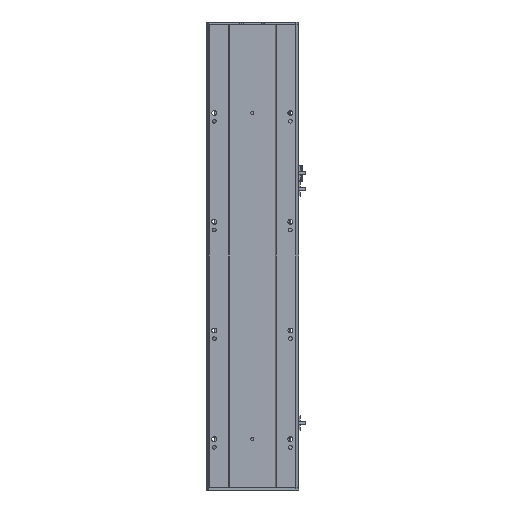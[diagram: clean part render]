
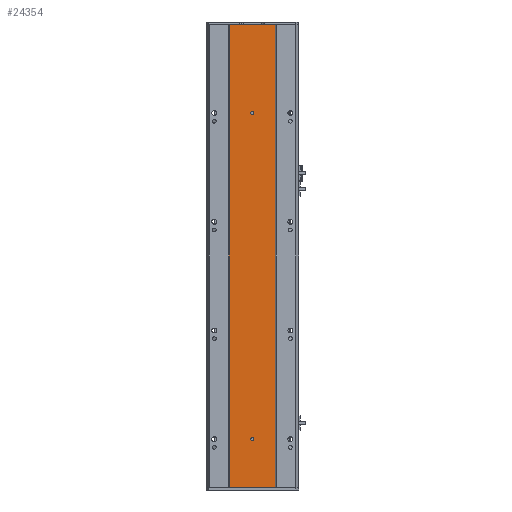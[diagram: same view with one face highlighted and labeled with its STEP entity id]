
A CAD part, front view. The second image highlights one B-rep face of the part: STEP entity #24354.
In plain terms, the highlighted planar face has unit normal (0, -1, 0).
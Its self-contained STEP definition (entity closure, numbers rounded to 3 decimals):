
#18 = VERTEX_POINT ( 'NONE', #1546 ) ;
#362 = CARTESIAN_POINT ( 'NONE',  ( 85., 2.57, 688.5 ) ) ;
#733 = CARTESIAN_POINT ( 'NONE',  ( 85., 2.57, 688.5 ) ) ;
#1546 = CARTESIAN_POINT ( 'NONE',  ( 126.916, 2.57, 0. ) ) ;
#1731 = ORIENTED_EDGE ( 'NONE', *, *, #17961, .T. ) ;
#2199 = ORIENTED_EDGE ( 'NONE', *, *, #20460, .T. ) ;
#2227 = DIRECTION ( 'NONE',  ( 0., 0., 1. ) ) ;
#2331 = CARTESIAN_POINT ( 'NONE',  ( 85., 2.57, 685.5 ) ) ;
#2481 = DIRECTION ( 'NONE',  ( 0., 1., 0. ) ) ;
#2581 = DIRECTION ( 'NONE',  ( 0., 0., 1. ) ) ;
#2593 = ORIENTED_EDGE ( 'NONE', *, *, #20894, .F. ) ;
#3217 = VERTEX_POINT ( 'NONE', #22075 ) ;
#3363 = AXIS2_PLACEMENT_3D ( 'NONE', #21736, #6793, #19922 ) ;
#3571 = LINE ( 'NONE', #5793, #22965 ) ;
#3633 = LINE ( 'NONE', #23263, #13070 ) ;
#4520 = ORIENTED_EDGE ( 'NONE', *, *, #18405, .T. ) ;
#4776 = VERTEX_POINT ( 'NONE', #21070 ) ;
#5448 = CARTESIAN_POINT ( 'NONE',  ( 85., 2.57, 691.5 ) ) ;
#5556 = AXIS2_PLACEMENT_3D ( 'NONE', #362, #13513, #2227 ) ;
#5793 = CARTESIAN_POINT ( 'NONE',  ( 42.916, 2.57, 0. ) ) ;
#6438 = LINE ( 'NONE', #9336, #15841 ) ;
#6537 = CARTESIAN_POINT ( 'NONE',  ( 42.916, 2.57, 851. ) ) ;
#6719 = VERTEX_POINT ( 'NONE', #5448 ) ;
#6769 = CARTESIAN_POINT ( 'NONE',  ( 85., 2.57, 88.5 ) ) ;
#6793 = DIRECTION ( 'NONE',  ( 0., 1., 0. ) ) ;
#7315 = VERTEX_POINT ( 'NONE', #21702 ) ;
#8075 = EDGE_LOOP ( 'NONE', ( #17426, #1731 ) ) ;
#8238 = VERTEX_POINT ( 'NONE', #2331 ) ;
#8654 = VERTEX_POINT ( 'NONE', #20254 ) ;
#8675 = DIRECTION ( 'NONE',  ( 0., 0., 1. ) ) ;
#9191 = CIRCLE ( 'NONE', #21482, 3. ) ;
#9336 = CARTESIAN_POINT ( 'NONE',  ( 126.916, 2.57, 0. ) ) ;
#9486 = CIRCLE ( 'NONE', #9721, 3. ) ;
#9721 = AXIS2_PLACEMENT_3D ( 'NONE', #6769, #19901, #8675 ) ;
#10509 = PLANE ( 'NONE',  #3363 ) ;
#10796 = EDGE_LOOP ( 'NONE', ( #4520, #2199 ) ) ;
#11233 = DIRECTION ( 'NONE',  ( 0., 0., 1. ) ) ;
#11518 = EDGE_CURVE ( 'NONE', #14950, #7315, #3633, .T. ) ;
#13070 = VECTOR ( 'NONE', #13923, 1000. ) ;
#13513 = DIRECTION ( 'NONE',  ( 0., 1., 0. ) ) ;
#13771 = CARTESIAN_POINT ( 'NONE',  ( 85., 2.57, 88.5 ) ) ;
#13875 = DIRECTION ( 'NONE',  ( 0., 1., 0. ) ) ;
#13923 = DIRECTION ( 'NONE',  ( 0., 0., 1. ) ) ;
#14547 = EDGE_CURVE ( 'NONE', #18, #3217, #6438, .T. ) ;
#14616 = ORIENTED_EDGE ( 'NONE', *, *, #11518, .F. ) ;
#14950 = VERTEX_POINT ( 'NONE', #23395 ) ;
#15070 = EDGE_LOOP ( 'NONE', ( #21797, #14616, #2593, #19600 ) ) ;
#15638 = DIRECTION ( 'NONE',  ( 0., 0., 1. ) ) ;
#15841 = VECTOR ( 'NONE', #11233, 1000. ) ;
#16348 = FACE_BOUND ( 'NONE', #10796, .T. ) ;
#16546 = AXIS2_PLACEMENT_3D ( 'NONE', #13771, #2481, #15638 ) ;
#16957 = FACE_BOUND ( 'NONE', #8075, .T. ) ;
#17426 = ORIENTED_EDGE ( 'NONE', *, *, #20614, .T. ) ;
#17537 = FACE_OUTER_BOUND ( 'NONE', #15070, .T. ) ;
#17961 = EDGE_CURVE ( 'NONE', #4776, #8654, #24172, .T. ) ;
#18405 = EDGE_CURVE ( 'NONE', #8238, #6719, #23371, .T. ) ;
#19600 = ORIENTED_EDGE ( 'NONE', *, *, #14547, .T. ) ;
#19659 = DIRECTION ( 'NONE',  ( -1., 0., 0. ) ) ;
#19901 = DIRECTION ( 'NONE',  ( 0., 1., 0. ) ) ;
#19922 = DIRECTION ( 'NONE',  ( 0., 0., 1. ) ) ;
#20254 = CARTESIAN_POINT ( 'NONE',  ( 85., 2.57, 85.5 ) ) ;
#20460 = EDGE_CURVE ( 'NONE', #6719, #8238, #9191, .T. ) ;
#20524 = EDGE_CURVE ( 'NONE', #3217, #7315, #21791, .T. ) ;
#20614 = EDGE_CURVE ( 'NONE', #8654, #4776, #9486, .T. ) ;
#20805 = DIRECTION ( 'NONE',  ( -1., 0., 0. ) ) ;
#20894 = EDGE_CURVE ( 'NONE', #18, #14950, #3571, .T. ) ;
#21070 = CARTESIAN_POINT ( 'NONE',  ( 85., 2.57, 91.5 ) ) ;
#21205 = VECTOR ( 'NONE', #19659, 1000. ) ;
#21482 = AXIS2_PLACEMENT_3D ( 'NONE', #733, #13875, #2581 ) ;
#21702 = CARTESIAN_POINT ( 'NONE',  ( 42.916, 2.57, 851. ) ) ;
#21736 = CARTESIAN_POINT ( 'NONE',  ( 42.916, 2.57, 0. ) ) ;
#21791 = LINE ( 'NONE', #6537, #21205 ) ;
#21797 = ORIENTED_EDGE ( 'NONE', *, *, #20524, .T. ) ;
#22075 = CARTESIAN_POINT ( 'NONE',  ( 126.916, 2.57, 851. ) ) ;
#22965 = VECTOR ( 'NONE', #20805, 1000. ) ;
#23263 = CARTESIAN_POINT ( 'NONE',  ( 42.916, 2.57, 0. ) ) ;
#23371 = CIRCLE ( 'NONE', #5556, 3. ) ;
#23395 = CARTESIAN_POINT ( 'NONE',  ( 42.916, 2.57, 0. ) ) ;
#24172 = CIRCLE ( 'NONE', #16546, 3. ) ;
#24354 = ADVANCED_FACE ( 'NONE', ( #16957, #16348, #17537 ), #10509, .F. ) ;
